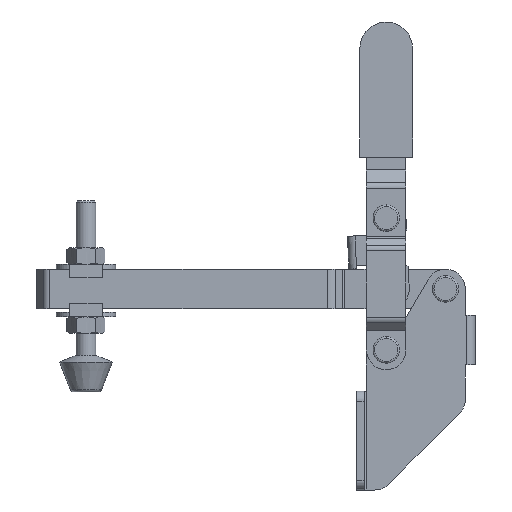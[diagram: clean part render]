
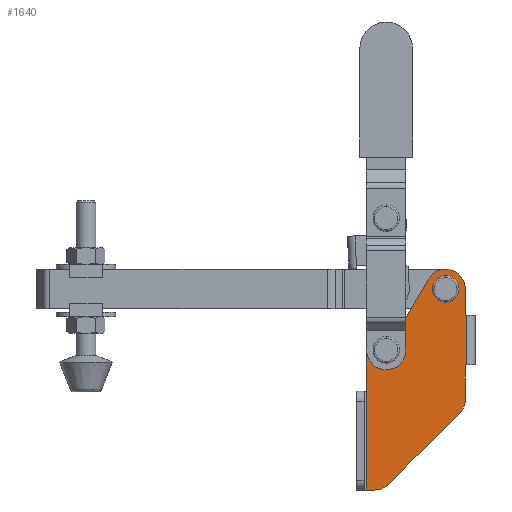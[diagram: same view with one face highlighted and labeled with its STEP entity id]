
A CAD part, front view. The second image highlights one B-rep face of the part: STEP entity #1640.
In plain terms, the highlighted planar face has unit normal (0, -1, 0).
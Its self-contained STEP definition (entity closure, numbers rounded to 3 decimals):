
#365=CARTESIAN_POINT('Cartesian Point',(85.057,-4.6,30.)) ;
#428=CARTESIAN_POINT('Line Origine',(85.09,-4.6,36.25)) ;
#432=CARTESIAN_POINT('Cartesian Point',(85.09,-4.6,42.5)) ;
#491=CARTESIAN_POINT('Cartesian Point',(91.09,-4.6,48.5)) ;
#499=CARTESIAN_POINT('Axis2P3D Location',(91.09,-4.6,42.5)) ;
#542=CARTESIAN_POINT('Line Origine',(92.441,-4.6,48.5)) ;
#546=CARTESIAN_POINT('Cartesian Point',(93.791,-4.6,48.5)) ;
#599=CARTESIAN_POINT('Axis2P3D Location',(93.791,-4.6,50.5)) ;
#603=CARTESIAN_POINT('Cartesian Point',(95.523,-4.6,49.5)) ;
#656=CARTESIAN_POINT('Line Origine',(96.307,-4.6,50.858)) ;
#660=CARTESIAN_POINT('Cartesian Point',(97.09,-4.6,52.215)) ;
#713=CARTESIAN_POINT('Line Origine',(100.492,-4.6,58.108)) ;
#717=CARTESIAN_POINT('Cartesian Point',(103.894,-4.6,64.)) ;
#750=CARTESIAN_POINT('Cartesian Point',(115.09,-4.6,61.)) ;
#765=CARTESIAN_POINT('Axis2P3D Location',(109.09,-4.6,61.)) ;
#769=CARTESIAN_POINT('Cartesian Point',(109.09,-4.6,67.)) ;
#772=CARTESIAN_POINT('Axis2P3D Location',(109.09,-4.6,61.)) ;
#865=CARTESIAN_POINT('Cartesian Point',(115.09,-4.6,53.)) ;
#873=CARTESIAN_POINT('Line Origine',(115.09,-4.6,57.)) ;
#909=CARTESIAN_POINT('Line Origine',(115.34,-4.6,53.)) ;
#913=CARTESIAN_POINT('Cartesian Point',(115.59,-4.6,53.)) ;
#1016=CARTESIAN_POINT('Cartesian Point',(115.59,-4.6,38.)) ;
#1019=CARTESIAN_POINT('Line Origine',(115.34,-4.6,38.)) ;
#1023=CARTESIAN_POINT('Cartesian Point',(115.09,-4.6,38.)) ;
#1102=CARTESIAN_POINT('Cartesian Point',(115.09,-4.6,27.485)) ;
#1110=CARTESIAN_POINT('Line Origine',(115.09,-4.6,32.743)) ;
#1159=CARTESIAN_POINT('Cartesian Point',(113.333,-4.6,23.243)) ;
#1167=CARTESIAN_POINT('Axis2P3D Location',(109.09,-4.6,27.485)) ;
#1216=CARTESIAN_POINT('Cartesian Point',(91.848,-4.6,1.757)) ;
#1224=CARTESIAN_POINT('Line Origine',(102.59,-4.6,12.5)) ;
#1273=CARTESIAN_POINT('Cartesian Point',(87.605,-4.6,0.)) ;
#1281=CARTESIAN_POINT('Axis2P3D Location',(87.605,-4.6,6.)) ;
#1310=CARTESIAN_POINT('Line Origine',(86.331,-4.6,0.)) ;
#1314=CARTESIAN_POINT('Cartesian Point',(85.057,-4.6,0.)) ;
#1562=CARTESIAN_POINT('Line Origine',(115.59,-4.6,33.5)) ;
#1574=CARTESIAN_POINT('Axis2P3D Location',(115.59,-4.6,0.)) ;
#1579=CARTESIAN_POINT('Line Origine',(85.057,-4.6,15.)) ;
#1604=CARTESIAN_POINT('Axis2P3D Location',(91.09,-4.6,42.5)) ;
#1608=CARTESIAN_POINT('Cartesian Point',(91.09,-4.6,39.5)) ;
#1610=CARTESIAN_POINT('Cartesian Point',(91.09,-4.6,45.5)) ;
#1613=CARTESIAN_POINT('Axis2P3D Location',(91.09,-4.6,42.5)) ;
#1622=CARTESIAN_POINT('Axis2P3D Location',(109.09,-4.6,61.)) ;
#1626=CARTESIAN_POINT('Cartesian Point',(109.09,-4.6,58.)) ;
#1628=CARTESIAN_POINT('Cartesian Point',(109.09,-4.6,64.)) ;
#1631=CARTESIAN_POINT('Axis2P3D Location',(109.09,-4.6,61.)) ;
#429=DIRECTION('Vector Direction',(0.,0.,-1.)) ;
#500=DIRECTION('Axis2P3D Direction',(0.,-1.,0.)) ;
#543=DIRECTION('Vector Direction',(-1.,0.,0.)) ;
#600=DIRECTION('Axis2P3D Direction',(0.,-1.,0.)) ;
#657=DIRECTION('Vector Direction',(-0.5,0.,-0.866)) ;
#714=DIRECTION('Vector Direction',(-0.5,0.,-0.866)) ;
#766=DIRECTION('Axis2P3D Direction',(0.,-1.,0.)) ;
#773=DIRECTION('Axis2P3D Direction',(0.,-1.,0.)) ;
#874=DIRECTION('Vector Direction',(0.,0.,-1.)) ;
#910=DIRECTION('Vector Direction',(-1.,0.,0.)) ;
#1020=DIRECTION('Vector Direction',(-1.,0.,0.)) ;
#1111=DIRECTION('Vector Direction',(0.,0.,-1.)) ;
#1168=DIRECTION('Axis2P3D Direction',(0.,-1.,0.)) ;
#1225=DIRECTION('Vector Direction',(-0.707,0.,-0.707)) ;
#1282=DIRECTION('Axis2P3D Direction',(0.,-1.,0.)) ;
#1311=DIRECTION('Vector Direction',(1.,0.,0.)) ;
#1563=DIRECTION('Vector Direction',(0.,0.,1.)) ;
#1575=DIRECTION('Axis2P3D Direction',(0.,1.,0.)) ;
#1576=DIRECTION('Axis2P3D XDirection',(0.,0.,-1.)) ;
#1580=DIRECTION('Vector Direction',(0.,0.,1.)) ;
#1605=DIRECTION('Axis2P3D Direction',(0.,1.,0.)) ;
#1614=DIRECTION('Axis2P3D Direction',(0.,1.,0.)) ;
#1623=DIRECTION('Axis2P3D Direction',(0.,1.,0.)) ;
#1632=DIRECTION('Axis2P3D Direction',(0.,1.,0.)) ;
#501=AXIS2_PLACEMENT_3D('Circle Axis2P3D',#499,#500,$) ;
#601=AXIS2_PLACEMENT_3D('Circle Axis2P3D',#599,#600,$) ;
#767=AXIS2_PLACEMENT_3D('Circle Axis2P3D',#765,#766,$) ;
#774=AXIS2_PLACEMENT_3D('Circle Axis2P3D',#772,#773,$) ;
#1169=AXIS2_PLACEMENT_3D('Circle Axis2P3D',#1167,#1168,$) ;
#1283=AXIS2_PLACEMENT_3D('Circle Axis2P3D',#1281,#1282,$) ;
#1577=AXIS2_PLACEMENT_3D('Plane Axis2P3D',#1574,#1575,#1576) ;
#1606=AXIS2_PLACEMENT_3D('Circle Axis2P3D',#1604,#1605,$) ;
#1615=AXIS2_PLACEMENT_3D('Circle Axis2P3D',#1613,#1614,$) ;
#1624=AXIS2_PLACEMENT_3D('Circle Axis2P3D',#1622,#1623,$) ;
#1633=AXIS2_PLACEMENT_3D('Circle Axis2P3D',#1631,#1632,$) ;
#1585=ORIENTED_EDGE('Oriented Edge',*,*,#1316,.T.) ;
#1586=ORIENTED_EDGE('Oriented Edge',*,*,#1285,.F.) ;
#1587=ORIENTED_EDGE('Oriented Edge',*,*,#1228,.F.) ;
#1588=ORIENTED_EDGE('Oriented Edge',*,*,#1171,.F.) ;
#1589=ORIENTED_EDGE('Oriented Edge',*,*,#1114,.F.) ;
#1590=ORIENTED_EDGE('Oriented Edge',*,*,#1025,.F.) ;
#1591=ORIENTED_EDGE('Oriented Edge',*,*,#1566,.T.) ;
#1592=ORIENTED_EDGE('Oriented Edge',*,*,#915,.T.) ;
#1593=ORIENTED_EDGE('Oriented Edge',*,*,#877,.F.) ;
#1594=ORIENTED_EDGE('Oriented Edge',*,*,#776,.F.) ;
#1595=ORIENTED_EDGE('Oriented Edge',*,*,#771,.F.) ;
#1596=ORIENTED_EDGE('Oriented Edge',*,*,#719,.T.) ;
#1597=ORIENTED_EDGE('Oriented Edge',*,*,#662,.T.) ;
#1598=ORIENTED_EDGE('Oriented Edge',*,*,#605,.T.) ;
#1599=ORIENTED_EDGE('Oriented Edge',*,*,#548,.T.) ;
#1600=ORIENTED_EDGE('Oriented Edge',*,*,#503,.F.) ;
#1601=ORIENTED_EDGE('Oriented Edge',*,*,#434,.T.) ;
#1602=ORIENTED_EDGE('Oriented Edge',*,*,#1583,.F.) ;
#1619=ORIENTED_EDGE('Oriented Edge',*,*,#1612,.T.) ;
#1620=ORIENTED_EDGE('Oriented Edge',*,*,#1617,.T.) ;
#1637=ORIENTED_EDGE('Oriented Edge',*,*,#1630,.T.) ;
#1638=ORIENTED_EDGE('Oriented Edge',*,*,#1635,.T.) ;
#1621=FACE_BOUND('Face Bound',#1618,.T.) ;
#1639=FACE_BOUND('Face Bound',#1636,.T.) ;
#430=VECTOR('Line Direction',#429,1.) ;
#544=VECTOR('Line Direction',#543,1.) ;
#658=VECTOR('Line Direction',#657,1.) ;
#715=VECTOR('Line Direction',#714,1.) ;
#875=VECTOR('Line Direction',#874,1.) ;
#911=VECTOR('Line Direction',#910,1.) ;
#1021=VECTOR('Line Direction',#1020,1.) ;
#1112=VECTOR('Line Direction',#1111,1.) ;
#1226=VECTOR('Line Direction',#1225,1.) ;
#1312=VECTOR('Line Direction',#1311,1.) ;
#1564=VECTOR('Line Direction',#1563,1.) ;
#1581=VECTOR('Line Direction',#1580,1.) ;
#1640=ADVANCED_FACE('',(#1603,#1621,#1639),#1578,.F.) ;
#502=CIRCLE('generated circle',#501,6.) ;
#602=CIRCLE('generated circle',#601,2.) ;
#768=CIRCLE('generated circle',#767,6.) ;
#775=CIRCLE('generated circle',#774,6.) ;
#1170=CIRCLE('generated circle',#1169,6.) ;
#1284=CIRCLE('generated circle',#1283,6.) ;
#1607=CIRCLE('generated circle',#1606,3.) ;
#1616=CIRCLE('generated circle',#1615,3.) ;
#1625=CIRCLE('generated circle',#1624,3.) ;
#1634=CIRCLE('generated circle',#1633,3.) ;
#434=EDGE_CURVE('',#433,#366,#431,.T.) ;
#503=EDGE_CURVE('',#433,#492,#502,.F.) ;
#548=EDGE_CURVE('',#547,#492,#545,.T.) ;
#605=EDGE_CURVE('',#604,#547,#602,.F.) ;
#662=EDGE_CURVE('',#661,#604,#659,.T.) ;
#719=EDGE_CURVE('',#718,#661,#716,.T.) ;
#771=EDGE_CURVE('',#718,#770,#768,.F.) ;
#776=EDGE_CURVE('',#770,#751,#775,.F.) ;
#877=EDGE_CURVE('',#751,#866,#876,.T.) ;
#915=EDGE_CURVE('',#914,#866,#912,.T.) ;
#1025=EDGE_CURVE('',#1017,#1024,#1022,.T.) ;
#1114=EDGE_CURVE('',#1024,#1103,#1113,.T.) ;
#1171=EDGE_CURVE('',#1103,#1160,#1170,.F.) ;
#1228=EDGE_CURVE('',#1160,#1217,#1227,.T.) ;
#1285=EDGE_CURVE('',#1217,#1274,#1284,.F.) ;
#1316=EDGE_CURVE('',#1315,#1274,#1313,.T.) ;
#1566=EDGE_CURVE('',#1017,#914,#1565,.T.) ;
#1583=EDGE_CURVE('',#1315,#366,#1582,.T.) ;
#1612=EDGE_CURVE('',#1609,#1611,#1607,.T.) ;
#1617=EDGE_CURVE('',#1611,#1609,#1616,.T.) ;
#1630=EDGE_CURVE('',#1627,#1629,#1625,.T.) ;
#1635=EDGE_CURVE('',#1629,#1627,#1634,.T.) ;
#1584=EDGE_LOOP('Oriented Loop',(#1585,#1586,#1587,#1588,#1589,#1590,#1591,#1592,#1593,#1594,#1595,#1596,#1597,#1598,#1599,#1600,#1601,#1602)) ;
#1618=EDGE_LOOP('Oriented Loop',(#1619,#1620)) ;
#1636=EDGE_LOOP('Oriented Loop',(#1637,#1638)) ;
#1603=FACE_OUTER_BOUND('Face Bound',#1584,.T.) ;
#431=LINE('Line',#428,#430) ;
#545=LINE('Line',#542,#544) ;
#659=LINE('Line',#656,#658) ;
#716=LINE('Line',#713,#715) ;
#876=LINE('Line',#873,#875) ;
#912=LINE('Line',#909,#911) ;
#1022=LINE('Line',#1019,#1021) ;
#1113=LINE('Line',#1110,#1112) ;
#1227=LINE('Line',#1224,#1226) ;
#1313=LINE('Line',#1310,#1312) ;
#1565=LINE('Line',#1562,#1564) ;
#1582=LINE('Line',#1579,#1581) ;
#1578=PLANE('Plane',#1577) ;
#366=VERTEX_POINT('Vertex Point',#365) ;
#433=VERTEX_POINT('Vertex Point',#432) ;
#492=VERTEX_POINT('Vertex Point',#491) ;
#547=VERTEX_POINT('Vertex Point',#546) ;
#604=VERTEX_POINT('Vertex Point',#603) ;
#661=VERTEX_POINT('Vertex Point',#660) ;
#718=VERTEX_POINT('Vertex Point',#717) ;
#751=VERTEX_POINT('Vertex Point',#750) ;
#770=VERTEX_POINT('Vertex Point',#769) ;
#866=VERTEX_POINT('Vertex Point',#865) ;
#914=VERTEX_POINT('Vertex Point',#913) ;
#1017=VERTEX_POINT('Vertex Point',#1016) ;
#1024=VERTEX_POINT('Vertex Point',#1023) ;
#1103=VERTEX_POINT('Vertex Point',#1102) ;
#1160=VERTEX_POINT('Vertex Point',#1159) ;
#1217=VERTEX_POINT('Vertex Point',#1216) ;
#1274=VERTEX_POINT('Vertex Point',#1273) ;
#1315=VERTEX_POINT('Vertex Point',#1314) ;
#1609=VERTEX_POINT('Vertex Point',#1608) ;
#1611=VERTEX_POINT('Vertex Point',#1610) ;
#1627=VERTEX_POINT('Vertex Point',#1626) ;
#1629=VERTEX_POINT('Vertex Point',#1628) ;
